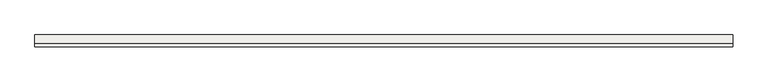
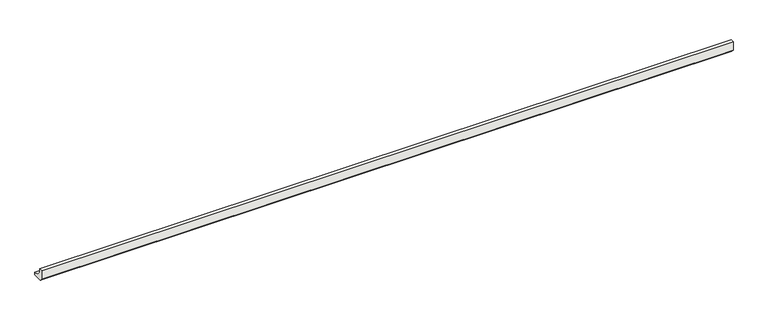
"""IFC4 building model written with IfcOpenShell, lengths in millimetres: slab geometry, ROSA GRES_112 : Pieza 112_Aqua_Plomo_Liso."""

from ifc_helpers import new_model, si_unit, point, frame, frame_2d, origin, place, context, project, spatial, polyline, circle_curve, trimmed, segment, composite_curve, outline, extrude, source, transform, mapped, element, save


def slab_d9e7cd34(model_context):
    return source(origin(), model_context, "Body", "SweptSolid", [
        extrude(outline(composite_curve([segment(polyline([(0.0, 8.7114978), (0.0, 40.0), (9.9734114, 40.0)]), True, "CONTINUOUS"), segment(trimmed(circle_curve(frame_2d((39.9955547, 39.9955547)), 30.0221435), [point((9.9734114, 40.0))], [point((40.0, 9.9734114))], True, "CARTESIAN"), True, "CONTINUOUS"), segment(polyline([(40.0, 9.9734114), (40.0, 0.0), (8.7114978, 0.0), (0.0, 8.7114978)]), True, "CONTINUOUS")], self_intersect=False)), frame((0.0, 0.0, 0.0), z_axis=(1.0, 0.0, 0.0), x_axis=(0.0, 1.0, 0.0)), (0.0, 0.0, 1.0), 2360.0),
    ])


if __name__ == "__main__":
    model = new_model("IFC4")
    model_context = context("Model", 3, world=origin())
    ifc_project = project(units=[si_unit("LENGTHUNIT", "METRE", prefix="MILLI")], contexts=[model_context])
    site = spatial("IfcSite", under=ifc_project)
    building = spatial("IfcBuilding", under=site)
    placement = place(None, origin())
    slab_shape = slab_d9e7cd34(model_context)
    element("IfcSlab", 1, ObjectType="ROSA GRES_112 : Pieza 112_Aqua_Plomo_Liso", at=placement, inside=building, context=model_context, shape_type="MappedRepresentation", body=[
        mapped(slab_shape, transform((0.0, 0.0, 0.0), x_axis=(1.0, 0.0, 0.0), y_axis=(0.0, 1.0, 0.0), z_axis=(0.0, 0.0, 1.0))),
    ])
    save(model, "model.ifc")
